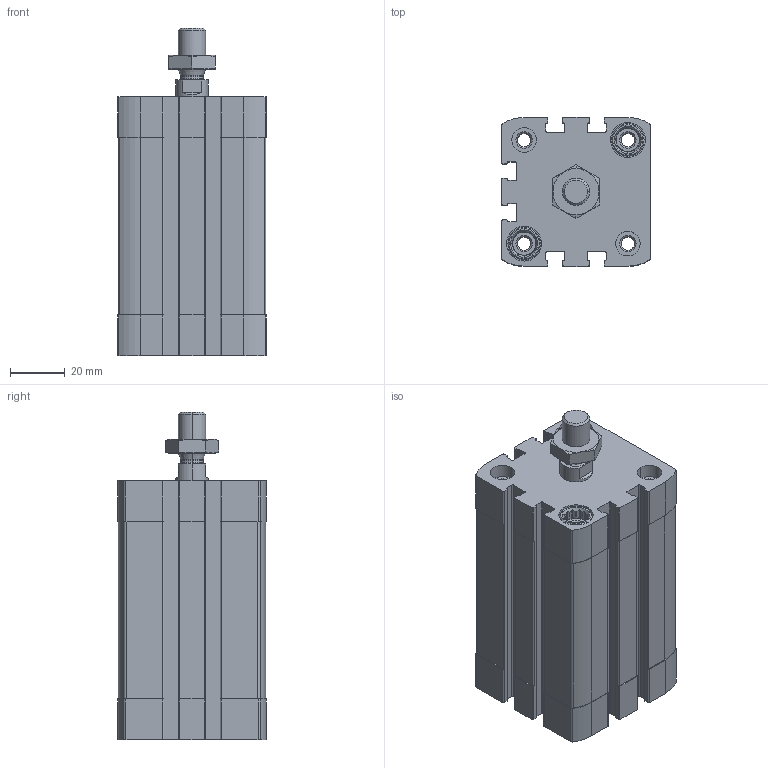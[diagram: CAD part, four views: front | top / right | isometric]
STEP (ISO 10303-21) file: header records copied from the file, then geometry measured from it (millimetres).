
FILE_DESCRIPTION (( 'STEP AP203' ), '1' );
FILE_NAME ('CCN40-50M.STEP', '2017-04-03T11:28:41', ( '' ), ( '' ), 'SwSTEP 2.0', 'SolidWorks 2016', '' );
FILE_SCHEMA (( 'CONFIG_CONTROL_DESIGN' ));
Length unit declared in the file: millimetre
Products named in the file (4): CCN40-50M; CCN-50---(Z); CCN-50_(KS); _DIN-439-B - M10x1.25(F)
Assembly tree (3 placements, depth 2):
  CCN40-50M
    CCN-50---(Z)
    CCN-50_(KS)
    _DIN-439-B - M10x1.25(F)
Bounding box: 54.5 x 54.5 x 120.1 mm (x, y, z)
Volume: 190107.8 mm3; surface area: 60676.4 mm2
Topology: 3 solids, 3 shells, 499 faces, 1336 edges, 874 vertices
Faces by surface type: plane 275, cylinder 172, cone 48, bspline 4
Entity records: 16266 total; most frequent: CARTESIAN_POINT 3123, DIRECTION 2724, ORIENTED_EDGE 2672, EDGE_CURVE 1336, AXIS2_PLACEMENT_3D 999, VERTEX_POINT 874, LINE 726, VECTOR 726
